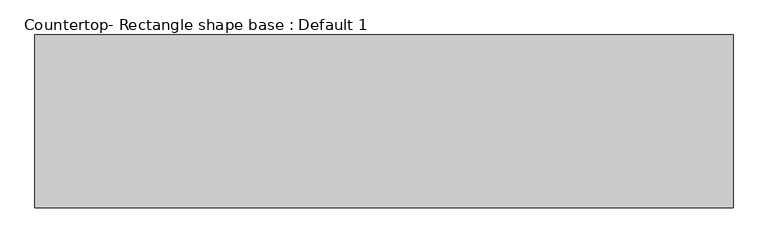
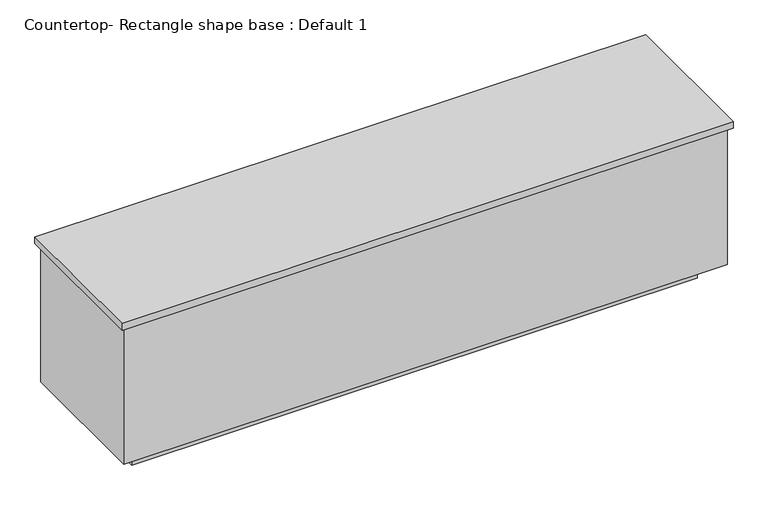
"""IFC4 building model written with IfcOpenShell, lengths in millimetres: proxy geometry, Countertop- Rectangle shape base : Default 1."""

from ifc_helpers import new_model, si_unit, frame, origin, origin_with_axes, place, context, project, spatial, polyline, outline, extrude, source, transform, mapped, element, save


def countertop_rectangle_shape_base_default_1_2ff23ce8(model_context):
    return source(origin(), model_context, "Body", "SweptSolid", [
        extrude(outline(polyline([(-866.775, -22.225), (-866.775, 784.225), (2390.775, 784.225), (2390.775, -22.225), (-866.775, -22.225)])), frame((0.0, 0.0, 876.3), z_axis=(0.0, 0.0, 1.0), x_axis=(1.0, 0.0, 0.0)), (0.0, 0.0, 1.0), 38.1),
        extrude(outline(polyline([(2371.725, 765.175), (2371.725, -3.175), (-847.725, -3.175), (-847.725, 765.175), (2371.725, 765.175)])), frame((0.0, 0.0, 101.6), z_axis=(0.0, 0.0, 1.0), x_axis=(1.0, 0.0, 0.0)), (0.0, 0.0, 1.0), 774.7),
        extrude(outline(polyline([(2270.125, 663.575), (2270.125, 98.425), (-746.125, 98.425), (-746.125, 663.575), (2270.125, 663.575)])), origin_with_axes(), (0.0, 0.0, 1.0), 101.6),
    ])


if __name__ == "__main__":
    model = new_model("IFC4")
    model_context = context("Model", 3, world=origin())
    ifc_project = project(units=[si_unit("LENGTHUNIT", "METRE", prefix="MILLI")], contexts=[model_context])
    site = spatial("IfcSite", under=ifc_project)
    building = spatial("IfcBuilding", under=site)
    placement = place(None, origin())
    countertop_rectangle_shape_base_default_1_shape = countertop_rectangle_shape_base_default_1_2ff23ce8(model_context)
    element("IfcBuildingElementProxy", 1, Name="Countertop- Rectangle shape base : Default 1", ObjectType="Countertop- Rectangle shape base : Default 1", at=placement, inside=building, context=model_context, shape_type="MappedRepresentation", body=[
        mapped(countertop_rectangle_shape_base_default_1_shape, transform((0.0, 0.0, 0.0), x_axis=(1.0, 0.0, 0.0), y_axis=(0.0, 1.0, 0.0), z_axis=(0.0, 0.0, 1.0))),
    ])
    save(model, "model.ifc")
